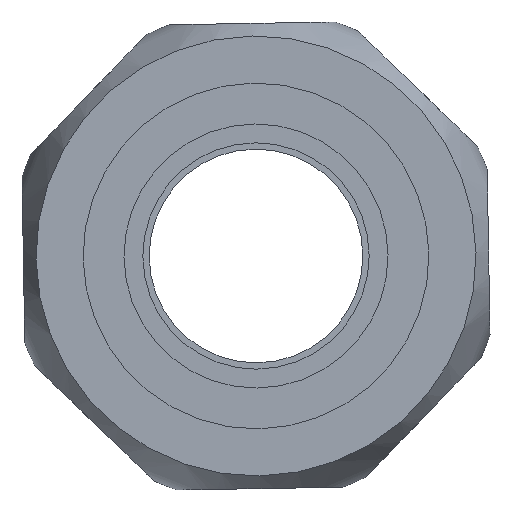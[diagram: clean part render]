
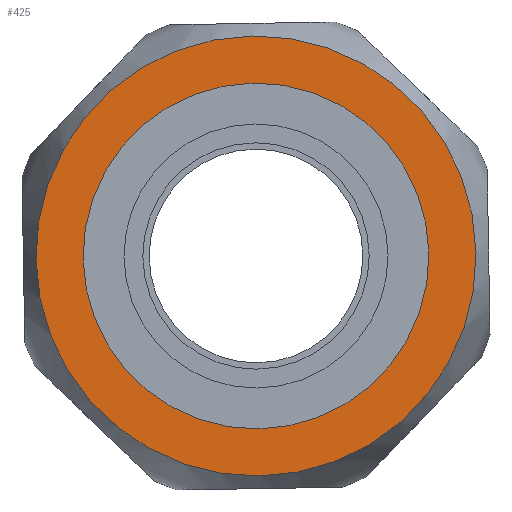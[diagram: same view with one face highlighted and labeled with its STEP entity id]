
A CAD part, left-side view. The second image highlights one B-rep face of the part: STEP entity #425.
In plain terms, the highlighted planar face has unit normal (-1, 0, 0).
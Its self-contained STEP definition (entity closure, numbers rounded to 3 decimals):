
#64=FACE_BOUND('',#139,.T.);
#81=PLANE('',#554);
#102=FACE_OUTER_BOUND('',#138,.T.);
#138=EDGE_LOOP('',(#354,#355));
#139=EDGE_LOOP('',(#356,#357));
#183=CIRCLE('',#546,17.5);
#184=CIRCLE('',#547,17.5);
#187=CIRCLE('',#552,13.75);
#188=CIRCLE('',#553,13.75);
#225=VERTEX_POINT('',#1267);
#226=VERTEX_POINT('',#1271);
#229=VERTEX_POINT('',#1280);
#230=VERTEX_POINT('',#1282);
#271=EDGE_CURVE('',#225,#226,#183,.T.);
#272=EDGE_CURVE('',#226,#225,#184,.T.);
#276=EDGE_CURVE('',#230,#229,#187,.T.);
#277=EDGE_CURVE('',#229,#230,#188,.T.);
#354=ORIENTED_EDGE('',*,*,#272,.F.);
#355=ORIENTED_EDGE('',*,*,#271,.F.);
#356=ORIENTED_EDGE('',*,*,#276,.T.);
#357=ORIENTED_EDGE('',*,*,#277,.T.);
#425=ADVANCED_FACE('',(#102,#64),#81,.T.);
#546=AXIS2_PLACEMENT_3D('',#1272,#634,#635);
#547=AXIS2_PLACEMENT_3D('',#1273,#636,#637);
#552=AXIS2_PLACEMENT_3D('',#1283,#647,#648);
#553=AXIS2_PLACEMENT_3D('',#1284,#649,#650);
#554=AXIS2_PLACEMENT_3D('',#1285,#651,#652);
#634=DIRECTION('center_axis',(1.,0.,0.));
#635=DIRECTION('ref_axis',(0.,1.,0.));
#636=DIRECTION('center_axis',(1.,0.,0.));
#637=DIRECTION('ref_axis',(0.,1.,0.));
#647=DIRECTION('center_axis',(1.,0.,0.));
#648=DIRECTION('ref_axis',(0.,1.,0.));
#649=DIRECTION('center_axis',(1.,0.,0.));
#650=DIRECTION('ref_axis',(0.,1.,0.));
#651=DIRECTION('center_axis',(-1.,0.,0.));
#652=DIRECTION('ref_axis',(0.,0.,1.));
#1267=CARTESIAN_POINT('',(0.,0.,17.5));
#1271=CARTESIAN_POINT('',(0.,17.5,0.));
#1272=CARTESIAN_POINT('Origin',(0.,0.,0.));
#1273=CARTESIAN_POINT('Origin',(0.,0.,0.));
#1280=CARTESIAN_POINT('',(0.,-13.75,0.));
#1282=CARTESIAN_POINT('',(0.,13.75,0.));
#1283=CARTESIAN_POINT('Origin',(0.,0.,0.));
#1284=CARTESIAN_POINT('Origin',(0.,0.,0.));
#1285=CARTESIAN_POINT('Origin',(0.,15.625,0.));
